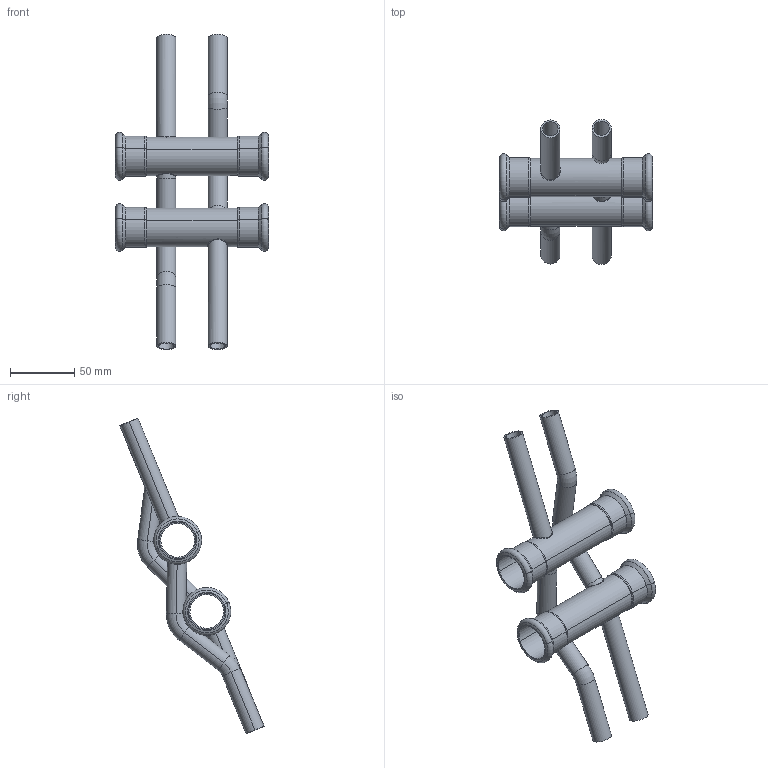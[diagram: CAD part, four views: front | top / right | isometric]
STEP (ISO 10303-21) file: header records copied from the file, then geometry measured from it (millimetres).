
FILE_DESCRIPTION(('CoCreate Modeling STEP Export'),'2;1');
FILE_NAME('C1436 28x15.stp','2015-08-12T13:39:00',(''),(''),'CoCreate Modeling STEP processor for AP214 (Solid Model)','CoCreate Modeling 17.00A 17-Jun-2010 (C) Parametric Technology GmbH','');
FILE_SCHEMA(('AUTOMOTIVE_DESIGN { 1 0 10303 214 1 1 1 1 }'));
Length unit declared in the file: millimetre
Products named in the file (5): 620869.7.1.2; 620869.7.1.1.1; 620863.1.1.1.1; 620863.1.1.1; C1436-28x15
Assembly tree (4 placements, depth 2):
  C1436-28x15
    620863.1.1.1
    620863.1.1.1.1
    620869.7.1.1.1
    620869.7.1.2
Bounding box: 120.02 x 112.91 x 246.4 mm (x, y, z)
Volume: 70322.9 mm3; surface area: 86982.2 mm2
Topology: 4 solids, 4 shells, 156 faces, 340 edges, 204 vertices
Faces by surface type: cylinder 72, torus 32, cone 24, plane 20, bspline 8
Entity records: 11327 total; most frequent: CARTESIAN_POINT 8293, ORIENTED_EDGE 680, DIRECTION 514, EDGE_CURVE 340, AXIS2_PLACEMENT_3D 209, VERTEX_POINT 204, EDGE_LOOP 184, FACE_OUTER_BOUND 156
